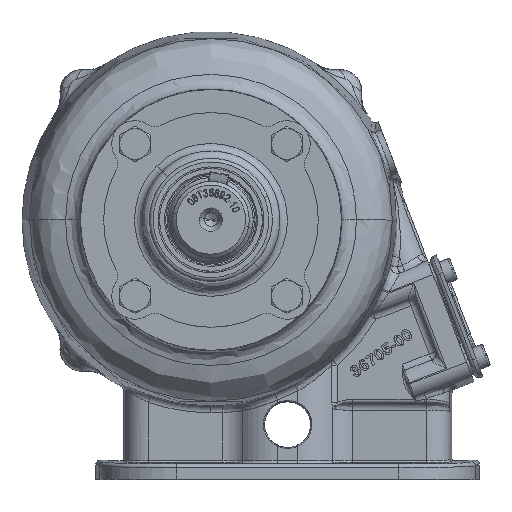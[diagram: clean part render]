
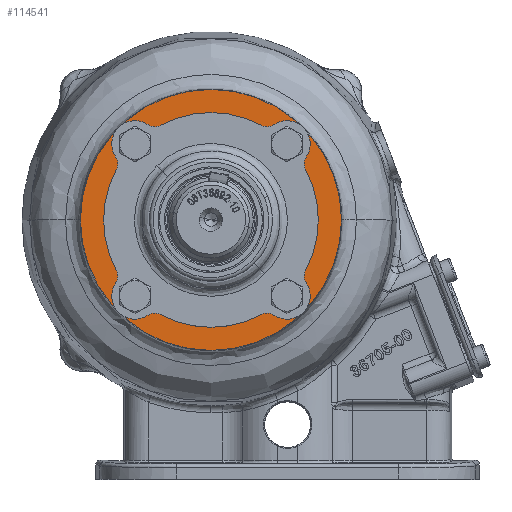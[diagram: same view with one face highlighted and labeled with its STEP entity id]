
A CAD part, top view. The second image highlights one B-rep face of the part: STEP entity #114541.
In plain terms, the highlighted planar face has unit normal (0, 0, 1).
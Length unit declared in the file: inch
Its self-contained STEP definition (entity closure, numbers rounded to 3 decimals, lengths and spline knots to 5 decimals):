
#1007 = DIRECTION ( 'NONE',  ( 0., 0., -1. ) ) ;
#2403 = DIRECTION ( 'NONE',  ( 0., 0., -1. ) ) ;
#2741 = CARTESIAN_POINT ( 'NONE',  ( -2.798, 3.3296, 4.568 ) ) ;
#5273 = VERTEX_POINT ( 'NONE', #2741 ) ;
#6051 = CIRCLE ( 'NONE', #160765, 0.141 ) ;
#6968 = FACE_BOUND ( 'NONE', #58314, .T. ) ;
#9340 = CARTESIAN_POINT ( 'NONE',  ( -1.25, 3.3296, 4.568 ) ) ;
#10314 = CIRCLE ( 'NONE', #60793, 1.548 ) ;
#10776 = CARTESIAN_POINT ( 'NONE',  ( -1.25, 3.3296, 4.568 ) ) ;
#11689 = EDGE_CURVE ( 'NONE', #13912, #147368, #49877, .T. ) ;
#11975 = CIRCLE ( 'NONE', #68137, 1.548 ) ;
#13458 = AXIS2_PLACEMENT_3D ( 'NONE', #148016, #1007, #54692 ) ;
#13513 = DIRECTION ( 'NONE',  ( 1., 0., 0. ) ) ;
#13912 = VERTEX_POINT ( 'NONE', #37604 ) ;
#13952 = CARTESIAN_POINT ( 'NONE',  ( -2.48744, 2.09216, 4.568 ) ) ;
#17677 = EDGE_CURVE ( 'NONE', #113251, #5273, #11975, .T. ) ;
#18017 = VERTEX_POINT ( 'NONE', #148126 ) ;
#18650 = DIRECTION ( 'NONE',  ( 0., 0., -1. ) ) ;
#21705 = CARTESIAN_POINT ( 'NONE',  ( -2.34644, 4.56704, 4.568 ) ) ;
#21908 = PLANE ( 'NONE',  #119620 ) ;
#22091 = CARTESIAN_POINT ( 'NONE',  ( -0.01256, 4.56704, 4.568 ) ) ;
#23910 = CARTESIAN_POINT ( 'NONE',  ( -0.01256, 2.09216, 4.568 ) ) ;
#28176 = ORIENTED_EDGE ( 'NONE', *, *, #11689, .T. ) ;
#28443 = DIRECTION ( 'NONE',  ( 0., 0., -1. ) ) ;
#28719 = CARTESIAN_POINT ( 'NONE',  ( -0.15356, 2.09216, 4.568 ) ) ;
#32901 = AXIS2_PLACEMENT_3D ( 'NONE', #159645, #28443, #13513 ) ;
#35298 = EDGE_CURVE ( 'NONE', #142572, #117077, #140595, .T. ) ;
#37604 = CARTESIAN_POINT ( 'NONE',  ( -2.62844, 4.56704, 4.568 ) ) ;
#40363 = DIRECTION ( 'NONE',  ( 1., 0., 0. ) ) ;
#40796 = ORIENTED_EDGE ( 'NONE', *, *, #35298, .T. ) ;
#41583 = EDGE_CURVE ( 'NONE', #105429, #128862, #98769, .T. ) ;
#42545 = EDGE_CURVE ( 'NONE', #117077, #142572, #6051, .T. ) ;
#43518 = ORIENTED_EDGE ( 'NONE', *, *, #141086, .F. ) ;
#47448 = FACE_BOUND ( 'NONE', #161763, .T. ) ;
#47694 = DIRECTION ( 'NONE',  ( 0., 1., 0. ) ) ;
#49438 = DIRECTION ( 'NONE',  ( 0., 0., -1. ) ) ;
#49877 = CIRCLE ( 'NONE', #32901, 0.141 ) ;
#50153 = EDGE_CURVE ( 'NONE', #168970, #18017, #99150, .T. ) ;
#54692 = DIRECTION ( 'NONE',  ( 0., -1., 0. ) ) ;
#58314 = EDGE_LOOP ( 'NONE', ( #67769, #28176 ) ) ;
#58846 = CARTESIAN_POINT ( 'NONE',  ( -2.62844, 2.09216, 4.568 ) ) ;
#59165 = ORIENTED_EDGE ( 'NONE', *, *, #41583, .T. ) ;
#60644 = FACE_BOUND ( 'NONE', #123777, .T. ) ;
#60793 = AXIS2_PLACEMENT_3D ( 'NONE', #117884, #77377, #40363 ) ;
#61922 = ORIENTED_EDGE ( 'NONE', *, *, #50153, .T. ) ;
#65872 = EDGE_CURVE ( 'NONE', #128862, #105429, #102846, .T. ) ;
#66306 = AXIS2_PLACEMENT_3D ( 'NONE', #72333, #18650, #149878 ) ;
#66591 = ORIENTED_EDGE ( 'NONE', *, *, #42545, .T. ) ;
#67769 = ORIENTED_EDGE ( 'NONE', *, *, #130619, .T. ) ;
#68137 = AXIS2_PLACEMENT_3D ( 'NONE', #9340, #87687, #101733 ) ;
#68407 = CARTESIAN_POINT ( 'NONE',  ( -0.01256, 2.09216, 4.568 ) ) ;
#69707 = EDGE_CURVE ( 'NONE', #113824, #166228, #122419, .T. ) ;
#72077 = EDGE_CURVE ( 'NONE', #5273, #113251, #10314, .T. ) ;
#72333 = CARTESIAN_POINT ( 'NONE',  ( -2.48744, 2.09216, 4.568 ) ) ;
#73378 = ORIENTED_EDGE ( 'NONE', *, *, #65872, .T. ) ;
#74958 = EDGE_CURVE ( 'NONE', #18017, #168970, #92109, .T. ) ;
#77377 = DIRECTION ( 'NONE',  ( 0., 0., 1. ) ) ;
#78486 = DIRECTION ( 'NONE',  ( 0., 0., -1. ) ) ;
#78815 = EDGE_LOOP ( 'NONE', ( #147576, #61922 ) ) ;
#80733 = DIRECTION ( 'NONE',  ( 1., 0., 0. ) ) ;
#82056 = CARTESIAN_POINT ( 'NONE',  ( -2.34644, 2.09216, 4.568 ) ) ;
#83319 = DIRECTION ( 'NONE',  ( 0., 0., -1. ) ) ;
#84236 = CARTESIAN_POINT ( 'NONE',  ( 0.12844, 2.09216, 4.568 ) ) ;
#87687 = DIRECTION ( 'NONE',  ( 0., 0., 1. ) ) ;
#89692 = CARTESIAN_POINT ( 'NONE',  ( -1.25, 1.20243, 4.568 ) ) ;
#90037 = AXIS2_PLACEMENT_3D ( 'NONE', #68407, #83319, #80733 ) ;
#90559 = DIRECTION ( 'NONE',  ( 0., 0., -1. ) ) ;
#90579 = DIRECTION ( 'NONE',  ( 1., 0., 0. ) ) ;
#92109 = CIRCLE ( 'NONE', #13458, 0.141 ) ;
#93517 = CIRCLE ( 'NONE', #132863, 2.12717 ) ;
#97000 = CARTESIAN_POINT ( 'NONE',  ( -0.01256, 4.70804, 4.568 ) ) ;
#98313 = CARTESIAN_POINT ( 'NONE',  ( -2.48744, 4.56704, 4.568 ) ) ;
#98401 = AXIS2_PLACEMENT_3D ( 'NONE', #98313, #2403, #150294 ) ;
#98769 = CIRCLE ( 'NONE', #166247, 0.141 ) ;
#99150 = CIRCLE ( 'NONE', #152554, 0.141 ) ;
#101733 = DIRECTION ( 'NONE',  ( 1., 0., 0. ) ) ;
#101998 = FACE_BOUND ( 'NONE', #78815, .T. ) ;
#102846 = CIRCLE ( 'NONE', #66306, 0.141 ) ;
#103188 = DIRECTION ( 'NONE',  ( 0., 1., 0. ) ) ;
#105429 = VERTEX_POINT ( 'NONE', #82056 ) ;
#109733 = CIRCLE ( 'NONE', #98401, 0.141 ) ;
#113251 = VERTEX_POINT ( 'NONE', #130778 ) ;
#113824 = VERTEX_POINT ( 'NONE', #166269 ) ;
#114541 = ADVANCED_FACE ( 'NONE', ( #168903, #6968, #60644, #101998, #47448, #155712 ), #21908, .F. ) ;
#117077 = VERTEX_POINT ( 'NONE', #28719 ) ;
#117884 = CARTESIAN_POINT ( 'NONE',  ( -1.25, 3.3296, 4.568 ) ) ;
#119011 = DIRECTION ( 'NONE',  ( 1., 0., 0. ) ) ;
#119620 = AXIS2_PLACEMENT_3D ( 'NONE', #132808, #90559, #144289 ) ;
#121367 = DIRECTION ( 'NONE',  ( 0., 0., -1. ) ) ;
#122419 = CIRCLE ( 'NONE', #136482, 2.12717 ) ;
#123777 = EDGE_LOOP ( 'NONE', ( #138912, #137373 ) ) ;
#128862 = VERTEX_POINT ( 'NONE', #58846 ) ;
#130377 = DIRECTION ( 'NONE',  ( 0., 0., -1. ) ) ;
#130619 = EDGE_CURVE ( 'NONE', #147368, #13912, #109733, .T. ) ;
#130778 = CARTESIAN_POINT ( 'NONE',  ( 0.298, 3.3296, 4.568 ) ) ;
#132808 = CARTESIAN_POINT ( 'NONE',  ( -1.25, 3.3296, 4.568 ) ) ;
#132863 = AXIS2_PLACEMENT_3D ( 'NONE', #10776, #171833, #103188 ) ;
#136482 = AXIS2_PLACEMENT_3D ( 'NONE', #145385, #49438, #47694 ) ;
#137373 = ORIENTED_EDGE ( 'NONE', *, *, #72077, .F. ) ;
#138912 = ORIENTED_EDGE ( 'NONE', *, *, #17677, .F. ) ;
#140595 = CIRCLE ( 'NONE', #90037, 0.141 ) ;
#141086 = EDGE_CURVE ( 'NONE', #166228, #113824, #93517, .T. ) ;
#142572 = VERTEX_POINT ( 'NONE', #84236 ) ;
#144289 = DIRECTION ( 'NONE',  ( -1., 0., 0. ) ) ;
#145385 = CARTESIAN_POINT ( 'NONE',  ( -1.25, 3.3296, 4.568 ) ) ;
#147368 = VERTEX_POINT ( 'NONE', #21705 ) ;
#147576 = ORIENTED_EDGE ( 'NONE', *, *, #74958, .T. ) ;
#148016 = CARTESIAN_POINT ( 'NONE',  ( -0.01256, 4.56704, 4.568 ) ) ;
#148126 = CARTESIAN_POINT ( 'NONE',  ( -0.01256, 4.42604, 4.568 ) ) ;
#149878 = DIRECTION ( 'NONE',  ( 1., 0., 0. ) ) ;
#150294 = DIRECTION ( 'NONE',  ( 1., 0., 0. ) ) ;
#152554 = AXIS2_PLACEMENT_3D ( 'NONE', #22091, #130377, #167338 ) ;
#155712 = FACE_OUTER_BOUND ( 'NONE', #167431, .T. ) ;
#159645 = CARTESIAN_POINT ( 'NONE',  ( -2.48744, 4.56704, 4.568 ) ) ;
#160765 = AXIS2_PLACEMENT_3D ( 'NONE', #23910, #78486, #119011 ) ;
#161763 = EDGE_LOOP ( 'NONE', ( #40796, #66591 ) ) ;
#164770 = EDGE_LOOP ( 'NONE', ( #59165, #73378 ) ) ;
#165100 = ORIENTED_EDGE ( 'NONE', *, *, #69707, .F. ) ;
#166228 = VERTEX_POINT ( 'NONE', #89692 ) ;
#166247 = AXIS2_PLACEMENT_3D ( 'NONE', #13952, #121367, #90579 ) ;
#166269 = CARTESIAN_POINT ( 'NONE',  ( -1.25, 5.45677, 4.568 ) ) ;
#167338 = DIRECTION ( 'NONE',  ( 0., -1., 0. ) ) ;
#167431 = EDGE_LOOP ( 'NONE', ( #165100, #43518 ) ) ;
#168903 = FACE_BOUND ( 'NONE', #164770, .T. ) ;
#168970 = VERTEX_POINT ( 'NONE', #97000 ) ;
#171833 = DIRECTION ( 'NONE',  ( 0., 0., -1. ) ) ;
